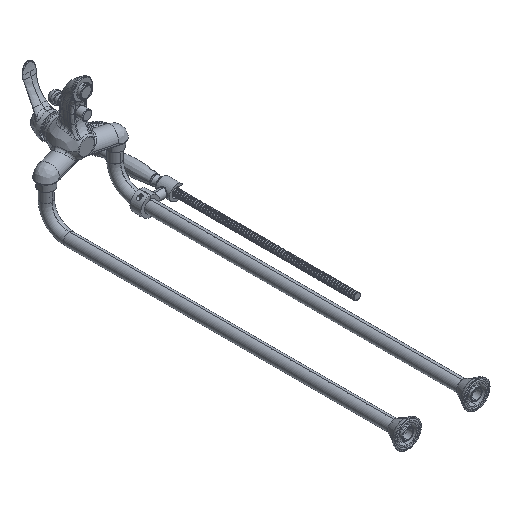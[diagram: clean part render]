
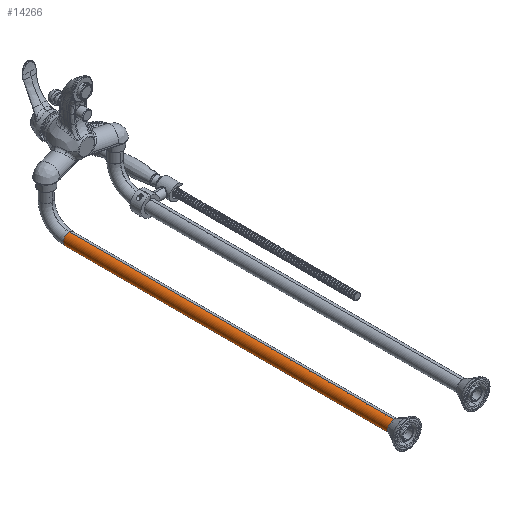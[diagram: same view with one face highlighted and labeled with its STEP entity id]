
A CAD part, isometric view. The second image highlights one B-rep face of the part: STEP entity #14266.
In plain terms, the highlighted cylindrical face has radius 12.75 mm (diameter 25.5 mm), a partial arc.
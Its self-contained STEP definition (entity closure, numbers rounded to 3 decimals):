
#3962=DIRECTION('',(0.,1.,0.));
#3963=VECTOR('',#3962,710.05);
#3964=CARTESIAN_POINT('',(-75.,-754.55,-77.25));
#3965=LINE('',#3964,#3963);
#3974=CARTESIAN_POINT('',(-75.,-754.55,-90.));
#3975=DIRECTION('',(0.,1.,0.));
#3976=DIRECTION('',(0.,0.,-1.));
#3977=AXIS2_PLACEMENT_3D('',#3974,#3975,#3976);
#3979=DIRECTION('',(0.,1.,0.));
#3980=VECTOR('',#3979,710.05);
#3981=CARTESIAN_POINT('',(-75.,-754.55,-102.75));
#3982=LINE('',#3981,#3980);
#3983=CARTESIAN_POINT('',(-75.,-44.5,-90.));
#3984=DIRECTION('',(0.,1.,0.));
#3985=DIRECTION('',(0.,0.,-1.));
#3986=AXIS2_PLACEMENT_3D('',#3983,#3984,#3985);
#8762=CARTESIAN_POINT('',(-75.,-44.5,-102.75));
#8763=CARTESIAN_POINT('',(-75.,-44.5,-77.25));
#8764=VERTEX_POINT('',#8762);
#8765=VERTEX_POINT('',#8763);
#9004=CARTESIAN_POINT('',(-75.,-754.55,-102.75));
#9005=CARTESIAN_POINT('',(-75.,-754.55,-77.25));
#9006=VERTEX_POINT('',#9004);
#9007=VERTEX_POINT('',#9005);
#14254=CARTESIAN_POINT('',(-75.,-784.5,-90.));
#14255=DIRECTION('',(0.,1.,0.));
#14256=DIRECTION('',(0.,0.,-1.));
#14257=AXIS2_PLACEMENT_3D('',#14254,#14255,#14256);
#14258=CYLINDRICAL_SURFACE('',#14257,12.75);
#14259=ORIENTED_EDGE('',*,*,#14245,.F.);
#14260=ORIENTED_EDGE('',*,*,#14220,.T.);
#14262=ORIENTED_EDGE('',*,*,#14261,.T.);
#14263=ORIENTED_EDGE('',*,*,#14217,.F.);
#14264=EDGE_LOOP('',(#14259,#14260,#14262,#14263));
#14265=FACE_OUTER_BOUND('',#14264,.F.);
#14266=ADVANCED_FACE('',(#14265),#14258,.T.);
#3978=CIRCLE('',#3977,12.75);
#3987=CIRCLE('',#3986,12.75);
#14217=EDGE_CURVE('',#9007,#8765,#3965,.T.);
#14220=EDGE_CURVE('',#9006,#8764,#3982,.T.);
#14245=EDGE_CURVE('',#9006,#9007,#3978,.T.);
#14261=EDGE_CURVE('',#8764,#8765,#3987,.T.);
